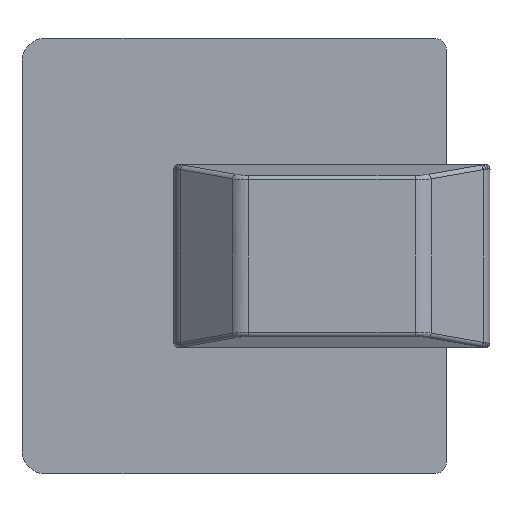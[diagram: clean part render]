
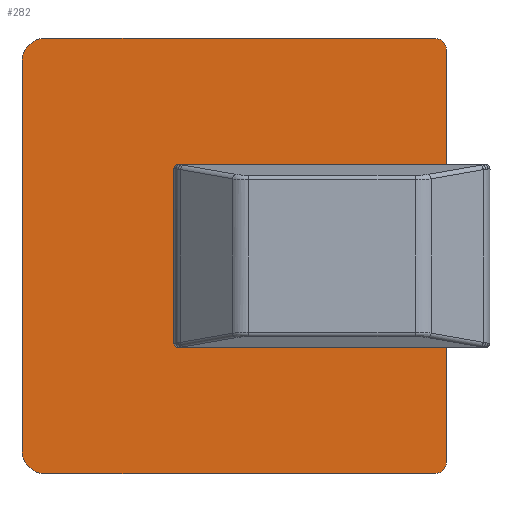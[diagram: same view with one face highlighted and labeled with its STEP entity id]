
A CAD part, front view. The second image highlights one B-rep face of the part: STEP entity #282.
In plain terms, the highlighted planar face has unit normal (0, -1, 0).
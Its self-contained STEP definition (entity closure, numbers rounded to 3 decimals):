
#119 = EDGE_CURVE ( 'NONE', #1639, #4343, #2413, .T. ) ;
#282 = ADVANCED_FACE ( 'NONE', ( #1618, #1747 ), #1151, .T. ) ;
#297 = CIRCLE ( 'NONE', #3314, 0.5 ) ;
#320 = LINE ( 'NONE', #4781, #2426 ) ;
#377 = AXIS2_PLACEMENT_3D ( 'NONE', #1308, #4257, #1723 ) ;
#481 = CARTESIAN_POINT ( 'NONE',  ( 9.5, 0., -17.527 ) ) ;
#515 = ORIENTED_EDGE ( 'NONE', *, *, #1835, .T. ) ;
#526 = EDGE_CURVE ( 'NONE', #846, #2125, #1637, .T. ) ;
#606 = CARTESIAN_POINT ( 'NONE',  ( -4., 0., -4.96 ) ) ;
#812 = DIRECTION ( 'NONE',  ( 0., 1., 0. ) ) ;
#813 = CARTESIAN_POINT ( 'NONE',  ( -8.5, 0., -18.531 ) ) ;
#845 = VERTEX_POINT ( 'NONE', #606 ) ;
#846 = VERTEX_POINT ( 'NONE', #4384 ) ;
#866 = CARTESIAN_POINT ( 'NONE',  ( 9.086, 0., -18.531 ) ) ;
#998 = DIRECTION ( 'NONE',  ( 1., 0., 0. ) ) ;
#1027 = DIRECTION ( 'NONE',  ( 0., 1., 0. ) ) ;
#1037 =( BOUNDED_CURVE ( )  B_SPLINE_CURVE ( 3, ( #813, #3338, #1232, #4182 ),
 .UNSPECIFIED., .F., .F. ) 
 B_SPLINE_CURVE_WITH_KNOTS ( ( 4, 4 ),
 ( 0., 1.571 ),
 .UNSPECIFIED. ) 
 CURVE ( )  GEOMETRIC_REPRESENTATION_ITEM ( )  RATIONAL_B_SPLINE_CURVE ( ( 1., 0.805, 0.805, 1. ) ) 
 REPRESENTATION_ITEM ( '' )  );
#1113 = CARTESIAN_POINT ( 'NONE',  ( -9.5, 0., -25. ) ) ;
#1132 = DIRECTION ( 'NONE',  ( 0., 0., -1. ) ) ;
#1151 = PLANE ( 'NONE',  #2761 ) ;
#1191 = EDGE_CURVE ( 'NONE', #1639, #2025, #3532, .T. ) ;
#1205 = VECTOR ( 'NONE', #5148, 1000. ) ;
#1232 = CARTESIAN_POINT ( 'NONE',  ( -9.5, 0., -18.115 ) ) ;
#1253 = CARTESIAN_POINT ( 'NONE',  ( -9., 0., -0.5 ) ) ;
#1267 = DIRECTION ( 'NONE',  ( 0., 0., -1. ) ) ;
#1273 = CARTESIAN_POINT ( 'NONE',  ( 9., 0., -0.5 ) ) ;
#1293 = CARTESIAN_POINT ( 'NONE',  ( -4., 0., -25. ) ) ;
#1308 = CARTESIAN_POINT ( 'NONE',  ( -0.01, 0., -5.04 ) ) ;
#1341 = LINE ( 'NONE', #1791, #5117 ) ;
#1369 = VERTEX_POINT ( 'NONE', #3278 ) ;
#1446 = EDGE_LOOP ( 'NONE', ( #1706, #1909, #4725, #2308, #5276, #1628, #4231, #1792 ) ) ;
#1545 = EDGE_CURVE ( 'NONE', #3356, #5252, #1341, .T. ) ;
#1563 = ORIENTED_EDGE ( 'NONE', *, *, #5140, .T. ) ;
#1570 = DIRECTION ( 'NONE',  ( 0., -1., 0. ) ) ;
#1618 = FACE_BOUND ( 'NONE', #4546, .T. ) ;
#1628 = ORIENTED_EDGE ( 'NONE', *, *, #526, .T. ) ;
#1637 =( BOUNDED_CURVE ( )  B_SPLINE_CURVE ( 3, ( #2540, #866, #3418, #3848 ),
 .UNSPECIFIED., .F., .F. ) 
 B_SPLINE_CURVE_WITH_KNOTS ( ( 4, 4 ),
 ( 3.142, 4.712 ),
 .UNSPECIFIED. ) 
 CURVE ( )  GEOMETRIC_REPRESENTATION_ITEM ( )  RATIONAL_B_SPLINE_CURVE ( ( 1., 0.805, 0.805, 1. ) ) 
 REPRESENTATION_ITEM ( '' )  );
#1639 = VERTEX_POINT ( 'NONE', #3435 ) ;
#1684 = DIRECTION ( 'NONE',  ( -1., 0., 0. ) ) ;
#1706 = ORIENTED_EDGE ( 'NONE', *, *, #3495, .T. ) ;
#1717 = DIRECTION ( 'NONE',  ( 1., 0., 0. ) ) ;
#1723 = DIRECTION ( 'NONE',  ( 0., 0., 1. ) ) ;
#1747 = FACE_OUTER_BOUND ( 'NONE', #1446, .T. ) ;
#1768 = AXIS2_PLACEMENT_3D ( 'NONE', #1253, #812, #1717 ) ;
#1791 = CARTESIAN_POINT ( 'NONE',  ( -9.5, 0., -9.05 ) ) ;
#1792 = ORIENTED_EDGE ( 'NONE', *, *, #5068, .T. ) ;
#1819 = CARTESIAN_POINT ( 'NONE',  ( -9.5, 0., -17.527 ) ) ;
#1835 = EDGE_CURVE ( 'NONE', #5252, #845, #4779, .T. ) ;
#1909 = ORIENTED_EDGE ( 'NONE', *, *, #1191, .F. ) ;
#1940 = CARTESIAN_POINT ( 'NONE',  ( 0.01, 0., -0.95 ) ) ;
#1955 = VERTEX_POINT ( 'NONE', #4953 ) ;
#2025 = VERTEX_POINT ( 'NONE', #5182 ) ;
#2125 = VERTEX_POINT ( 'NONE', #481 ) ;
#2130 = DIRECTION ( 'NONE',  ( 0., 0., 1. ) ) ;
#2172 = CARTESIAN_POINT ( 'NONE',  ( -9.5, 0., -18.531 ) ) ;
#2275 = CIRCLE ( 'NONE', #377, 4.01 ) ;
#2308 = ORIENTED_EDGE ( 'NONE', *, *, #2559, .F. ) ;
#2378 = VERTEX_POINT ( 'NONE', #3997 ) ;
#2397 = ORIENTED_EDGE ( 'NONE', *, *, #3424, .T. ) ;
#2413 = LINE ( 'NONE', #4317, #4798 ) ;
#2426 = VECTOR ( 'NONE', #998, 1000. ) ;
#2449 = VECTOR ( 'NONE', #1267, 1000. ) ;
#2522 = VECTOR ( 'NONE', #2130, 1000. ) ;
#2540 = CARTESIAN_POINT ( 'NONE',  ( 8.5, 0., -18.531 ) ) ;
#2559 = EDGE_CURVE ( 'NONE', #2378, #4343, #1037, .T. ) ;
#2592 = CARTESIAN_POINT ( 'NONE',  ( -4., 0., -9.05 ) ) ;
#2646 = EDGE_CURVE ( 'NONE', #1955, #4403, #4700, .T. ) ;
#2727 = EDGE_CURVE ( 'NONE', #2378, #846, #3586, .T. ) ;
#2761 = AXIS2_PLACEMENT_3D ( 'NONE', #1113, #1570, #4525 ) ;
#2788 = CARTESIAN_POINT ( 'NONE',  ( 4., 0., -5.04 ) ) ;
#2839 = ORIENTED_EDGE ( 'NONE', *, *, #1545, .T. ) ;
#2895 = ORIENTED_EDGE ( 'NONE', *, *, #2646, .T. ) ;
#2935 = VERTEX_POINT ( 'NONE', #1940 ) ;
#2942 = VERTEX_POINT ( 'NONE', #5335 ) ;
#3151 = CARTESIAN_POINT ( 'NONE',  ( -9.5, 0., 0. ) ) ;
#3278 = CARTESIAN_POINT ( 'NONE',  ( 9.5, 0., -0.5 ) ) ;
#3289 = VECTOR ( 'NONE', #4394, 1000. ) ;
#3314 = AXIS2_PLACEMENT_3D ( 'NONE', #1273, #4230, #1684 ) ;
#3338 = CARTESIAN_POINT ( 'NONE',  ( -9.086, 0., -18.531 ) ) ;
#3356 = VERTEX_POINT ( 'NONE', #4314 ) ;
#3383 = CIRCLE ( 'NONE', #3857, 4.01 ) ;
#3418 = CARTESIAN_POINT ( 'NONE',  ( 9.5, 0., -18.115 ) ) ;
#3424 = EDGE_CURVE ( 'NONE', #2935, #1955, #320, .T. ) ;
#3435 = CARTESIAN_POINT ( 'NONE',  ( -9.5, 0., -0.5 ) ) ;
#3478 = DIRECTION ( 'NONE',  ( 0., 0., -1. ) ) ;
#3495 = EDGE_CURVE ( 'NONE', #2942, #2025, #4415, .T. ) ;
#3505 = DIRECTION ( 'NONE',  ( -1., 0., 0. ) ) ;
#3532 = CIRCLE ( 'NONE', #1768, 0.5 ) ;
#3563 = CARTESIAN_POINT ( 'NONE',  ( 0.01, 0., -4.96 ) ) ;
#3586 = LINE ( 'NONE', #2172, #1205 ) ;
#3660 = CARTESIAN_POINT ( 'NONE',  ( 9.5, 0., -25. ) ) ;
#3802 = CARTESIAN_POINT ( 'NONE',  ( 4., 0., -25. ) ) ;
#3848 = CARTESIAN_POINT ( 'NONE',  ( 9.5, 0., -17.527 ) ) ;
#3857 = AXIS2_PLACEMENT_3D ( 'NONE', #3563, #1027, #3996 ) ;
#3996 = DIRECTION ( 'NONE',  ( 0., 0., 1. ) ) ;
#3997 = CARTESIAN_POINT ( 'NONE',  ( -8.5, 0., -18.531 ) ) ;
#4080 = LINE ( 'NONE', #3660, #5197 ) ;
#4182 = CARTESIAN_POINT ( 'NONE',  ( -9.5, 0., -17.527 ) ) ;
#4230 = DIRECTION ( 'NONE',  ( 0., -1., 0. ) ) ;
#4231 = ORIENTED_EDGE ( 'NONE', *, *, #4409, .F. ) ;
#4257 = DIRECTION ( 'NONE',  ( 0., 1., 0. ) ) ;
#4314 = CARTESIAN_POINT ( 'NONE',  ( -0.01, 0., -9.05 ) ) ;
#4317 = CARTESIAN_POINT ( 'NONE',  ( -9.5, 0., -25. ) ) ;
#4343 = VERTEX_POINT ( 'NONE', #1819 ) ;
#4384 = CARTESIAN_POINT ( 'NONE',  ( 8.5, 0., -18.531 ) ) ;
#4394 = DIRECTION ( 'NONE',  ( -1., 0., 0. ) ) ;
#4403 = VERTEX_POINT ( 'NONE', #2788 ) ;
#4409 = EDGE_CURVE ( 'NONE', #1369, #2125, #4080, .T. ) ;
#4415 = LINE ( 'NONE', #3151, #3289 ) ;
#4525 = DIRECTION ( 'NONE',  ( 0., 0., -1. ) ) ;
#4538 = ORIENTED_EDGE ( 'NONE', *, *, #5290, .T. ) ;
#4546 = EDGE_LOOP ( 'NONE', ( #2839, #515, #4538, #2397, #2895, #1563 ) ) ;
#4700 = LINE ( 'NONE', #3802, #2449 ) ;
#4725 = ORIENTED_EDGE ( 'NONE', *, *, #119, .T. ) ;
#4779 = LINE ( 'NONE', #1293, #2522 ) ;
#4781 = CARTESIAN_POINT ( 'NONE',  ( -9.5, 0., -0.95 ) ) ;
#4798 = VECTOR ( 'NONE', #3478, 1000. ) ;
#4953 = CARTESIAN_POINT ( 'NONE',  ( 4., 0., -0.95 ) ) ;
#5068 = EDGE_CURVE ( 'NONE', #1369, #2942, #297, .T. ) ;
#5117 = VECTOR ( 'NONE', #3505, 1000. ) ;
#5140 = EDGE_CURVE ( 'NONE', #4403, #3356, #2275, .T. ) ;
#5148 = DIRECTION ( 'NONE',  ( 1., 0., 0. ) ) ;
#5182 = CARTESIAN_POINT ( 'NONE',  ( -9., 0., 0. ) ) ;
#5197 = VECTOR ( 'NONE', #1132, 1000. ) ;
#5252 = VERTEX_POINT ( 'NONE', #2592 ) ;
#5276 = ORIENTED_EDGE ( 'NONE', *, *, #2727, .T. ) ;
#5290 = EDGE_CURVE ( 'NONE', #845, #2935, #3383, .T. ) ;
#5335 = CARTESIAN_POINT ( 'NONE',  ( 9., 0., 0. ) ) ;
